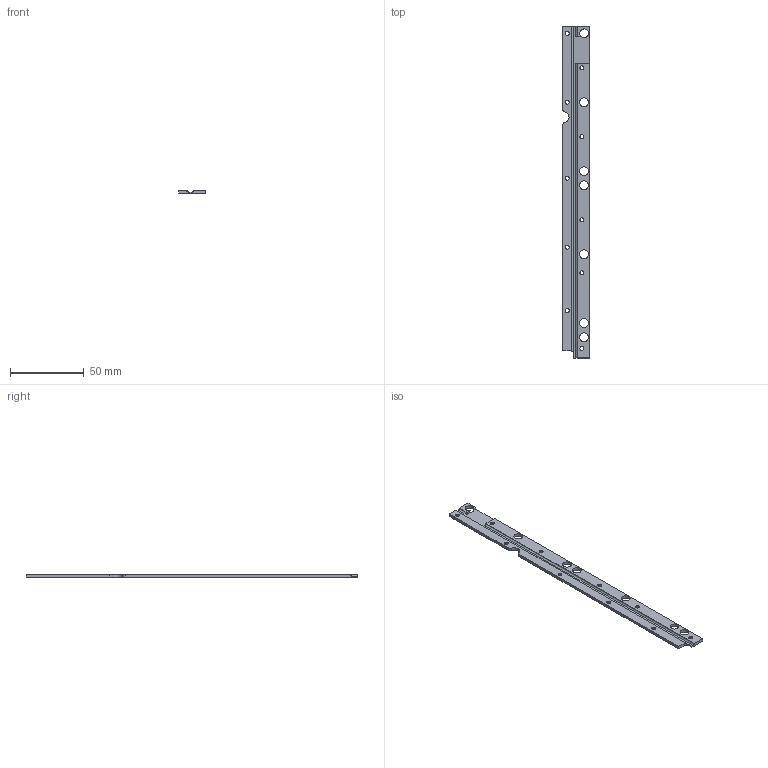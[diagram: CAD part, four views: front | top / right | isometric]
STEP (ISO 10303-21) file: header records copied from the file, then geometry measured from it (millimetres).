
FILE_DESCRIPTION(/* description */ (''),/* implementation_level */ '2;1');
FILE_NAME(/* name */ 'LAMINA#5.stp',/* time_stamp */ '2023-05-18T12:50:22+02:00',/* author */ (''),/* organization */ (''),/* preprocessor_version */ 'ST-DEVELOPER v18.102',/* originating_system */ 'SIEMENS PLM Software NX 2000',/* authorisation */ '');
FILE_SCHEMA (('AP203_CONFIGURATION_CONTROLLED_3D_DESIGN_OF_MECHANICAL_PARTS_AND_ASSEMBLIES_MIM_LF { 1 0 10303 403 2 1 2}'));
Length unit declared in the file: millimetre
Products named in the file (1): turc23EC399Budgm
Bounding box: 18 x 225.5 x 2 mm (x, y, z)
Volume: 6219.9 mm3; surface area: 9175.3 mm2
Topology: 1 solids, 1 shells, 52 faces, 162 edges, 106 vertices
Faces by surface type: cylinder 24, plane 18, cone 10
Full cylindrical faces by diameter (mm): 2.7 x10, 6 x7
Entity records: 1717 total; most frequent: DIRECTION 284, CARTESIAN_POINT 282, ORIENTED_EDGE 240, EDGE_CURVE 120, AXIS2_PLACEMENT_3D 112, EDGE_LOOP 107, VERTEX_POINT 91, FACE_BOUND 85
